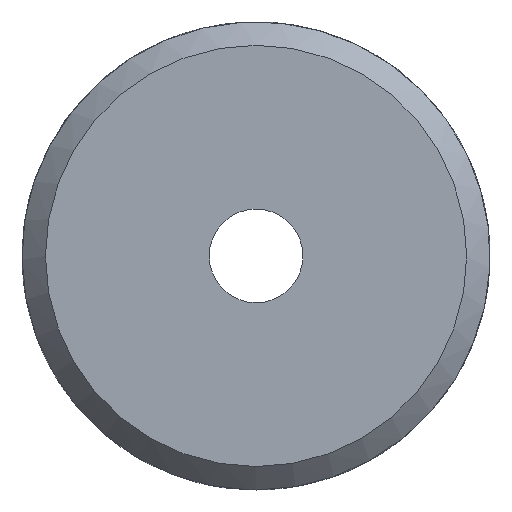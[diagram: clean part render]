
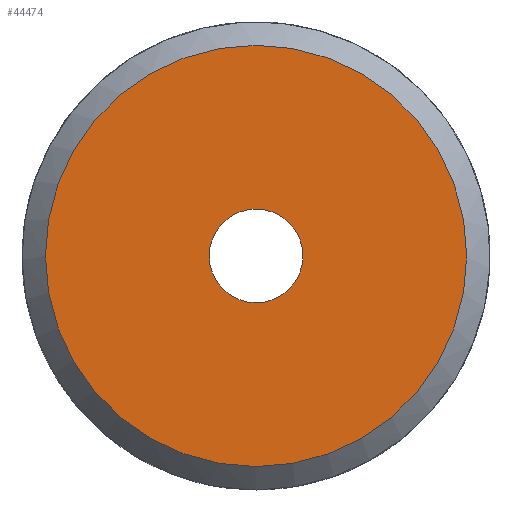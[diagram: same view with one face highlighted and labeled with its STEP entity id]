
A CAD part, left-side view. The second image highlights one B-rep face of the part: STEP entity #44474.
In plain terms, the highlighted planar face has unit normal (-1, 0, 0).
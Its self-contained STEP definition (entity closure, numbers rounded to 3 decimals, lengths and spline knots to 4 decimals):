
#12636=PLANE('',#43613);
#13781=ORIENTED_EDGE('',*,*,#17542,.F.);
#13782=ORIENTED_EDGE('',*,*,#17543,.F.);
#16274=CIRCLE('',#43612,4.5);
#16275=CIRCLE('',#43614,1.);
#16642=VERTEX_POINT('',#21437);
#16643=VERTEX_POINT('',#21440);
#17542=EDGE_CURVE('',#16642,#16642,#16274,.T.);
#17543=EDGE_CURVE('',#16643,#16643,#16275,.T.);
#18780=EDGE_LOOP('',(#13781));
#18781=EDGE_LOOP('',(#13782));
#19154=FACE_BOUND('',#18780,.T.);
#19155=FACE_BOUND('',#18781,.T.);
#19545=DIRECTION('',(1.,0.,0.));
#19546=DIRECTION('',(0.,-4.5,0.));
#19547=DIRECTION('',(-1.,0.,0.));
#19548=DIRECTION('',(0.,1.,0.));
#19549=DIRECTION('',(-1.,0.,0.));
#19550=DIRECTION('',(0.,0.,1.));
#21437=CARTESIAN_POINT('',(53.3251,143.2359,0.));
#21438=CARTESIAN_POINT('',(53.3251,147.7359,0.));
#21439=CARTESIAN_POINT('',(53.3251,143.2359,0.));
#21440=CARTESIAN_POINT('',(53.3251,147.7359,1.));
#21441=CARTESIAN_POINT('',(53.3251,147.7359,0.));
#43612=AXIS2_PLACEMENT_3D('',#21438,#19545,#19546);
#43613=AXIS2_PLACEMENT_3D('',#21439,#19547,#19548);
#43614=AXIS2_PLACEMENT_3D('',#21441,#19549,#19550);
#44474=ADVANCED_FACE('',(#19154,#19155),#12636,.T.);
